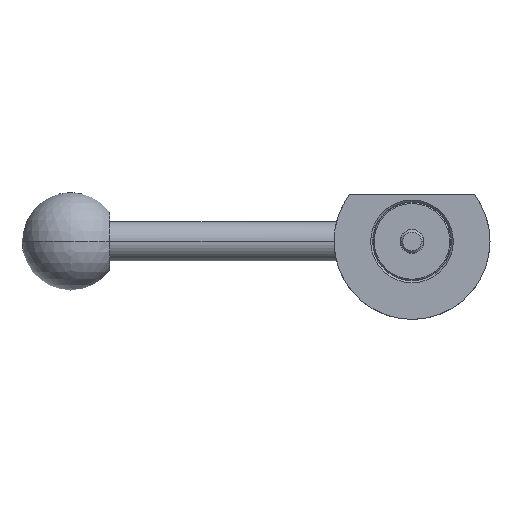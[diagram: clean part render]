
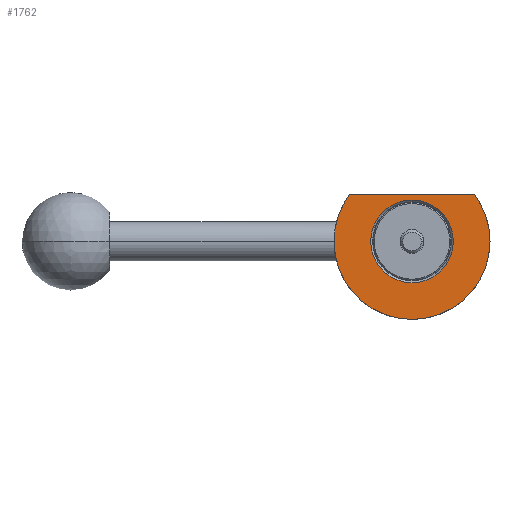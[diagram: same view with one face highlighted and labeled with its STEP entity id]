
A CAD part, front view. The second image highlights one B-rep face of the part: STEP entity #1762.
In plain terms, the highlighted planar face has unit normal (0, -1, 0).
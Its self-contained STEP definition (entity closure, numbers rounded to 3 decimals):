
#2 = CARTESIAN_POINT ( 'NONE',  ( 0., -10., 0. ) ) ;
#10 = AXIS2_PLACEMENT_3D ( 'NONE', #1548, #2010, #579 ) ;
#19 = DIRECTION ( 'NONE',  ( 0., 1., 0. ) ) ;
#125 = DIRECTION ( 'NONE',  ( -1., 0., 0. ) ) ;
#131 = PLANE ( 'NONE',  #10 ) ;
#150 = VERTEX_POINT ( 'NONE', #1478 ) ;
#238 = VERTEX_POINT ( 'NONE', #1544 ) ;
#269 = LINE ( 'NONE', #728, #1118 ) ;
#308 = EDGE_CURVE ( 'NONE', #238, #1300, #1233, .T. ) ;
#322 = DIRECTION ( 'NONE',  ( 0., 1., 0. ) ) ;
#391 = AXIS2_PLACEMENT_3D ( 'NONE', #2, #1703, #1369 ) ;
#504 = AXIS2_PLACEMENT_3D ( 'NONE', #785, #322, #774 ) ;
#579 = DIRECTION ( 'NONE',  ( 1., 0., 0. ) ) ;
#618 = CARTESIAN_POINT ( 'NONE',  ( -16.001, -10., 11.999 ) ) ;
#623 = DIRECTION ( 'NONE',  ( -1., 0., 0. ) ) ;
#706 = CARTESIAN_POINT ( 'NONE',  ( -20., -10., 0. ) ) ;
#721 = EDGE_CURVE ( 'NONE', #1300, #238, #1199, .T. ) ;
#728 = CARTESIAN_POINT ( 'NONE',  ( -10.6, -10., 11.999 ) ) ;
#733 = AXIS2_PLACEMENT_3D ( 'NONE', #2024, #1752, #1424 ) ;
#754 = EDGE_CURVE ( 'NONE', #1168, #150, #1068, .T. ) ;
#770 = FACE_BOUND ( 'NONE', #1579, .T. ) ;
#774 = DIRECTION ( 'NONE',  ( -1., 0., 0. ) ) ;
#784 = EDGE_CURVE ( 'NONE', #1378, #1813, #1826, .T. ) ;
#785 = CARTESIAN_POINT ( 'NONE',  ( 0., -10., 0. ) ) ;
#902 = DIRECTION ( 'NONE',  ( -1., 0., 0. ) ) ;
#961 = ORIENTED_EDGE ( 'NONE', *, *, #721, .T. ) ;
#1045 = ORIENTED_EDGE ( 'NONE', *, *, #1508, .F. ) ;
#1068 = CIRCLE ( 'NONE', #1201, 20. ) ;
#1078 = FACE_OUTER_BOUND ( 'NONE', #1977, .T. ) ;
#1118 = VECTOR ( 'NONE', #902, 1000. ) ;
#1138 = CARTESIAN_POINT ( 'NONE',  ( 16.001, -10., 11.999 ) ) ;
#1168 = VERTEX_POINT ( 'NONE', #1138 ) ;
#1199 = CIRCLE ( 'NONE', #504, 10.6 ) ;
#1201 = AXIS2_PLACEMENT_3D ( 'NONE', #1904, #19, #623 ) ;
#1233 = CIRCLE ( 'NONE', #1920, 10.6 ) ;
#1278 = CIRCLE ( 'NONE', #391, 20. ) ;
#1300 = VERTEX_POINT ( 'NONE', #1470 ) ;
#1345 = ORIENTED_EDGE ( 'NONE', *, *, #754, .F. ) ;
#1369 = DIRECTION ( 'NONE',  ( -1., 0., 0. ) ) ;
#1378 = VERTEX_POINT ( 'NONE', #706 ) ;
#1424 = DIRECTION ( 'NONE',  ( -1., 0., 0. ) ) ;
#1427 = EDGE_CURVE ( 'NONE', #1168, #1813, #269, .T. ) ;
#1470 = CARTESIAN_POINT ( 'NONE',  ( -10.6, -10., 0. ) ) ;
#1478 = CARTESIAN_POINT ( 'NONE',  ( 20., -10., 0. ) ) ;
#1508 = EDGE_CURVE ( 'NONE', #150, #1378, #1278, .T. ) ;
#1544 = CARTESIAN_POINT ( 'NONE',  ( 10.6, -10., 0. ) ) ;
#1548 = CARTESIAN_POINT ( 'NONE',  ( -10.6, -10., 0. ) ) ;
#1579 = EDGE_LOOP ( 'NONE', ( #1618, #961 ) ) ;
#1618 = ORIENTED_EDGE ( 'NONE', *, *, #308, .T. ) ;
#1676 = ORIENTED_EDGE ( 'NONE', *, *, #1427, .T. ) ;
#1681 = DIRECTION ( 'NONE',  ( 0., 1., 0. ) ) ;
#1703 = DIRECTION ( 'NONE',  ( 0., 1., 0. ) ) ;
#1752 = DIRECTION ( 'NONE',  ( 0., 1., 0. ) ) ;
#1762 = ADVANCED_FACE ( 'NONE', ( #770, #1078 ), #131, .T. ) ;
#1813 = VERTEX_POINT ( 'NONE', #618 ) ;
#1826 = CIRCLE ( 'NONE', #733, 20. ) ;
#1835 = CARTESIAN_POINT ( 'NONE',  ( 0., -10., 0. ) ) ;
#1904 = CARTESIAN_POINT ( 'NONE',  ( 0., -10., 0. ) ) ;
#1920 = AXIS2_PLACEMENT_3D ( 'NONE', #1835, #1681, #125 ) ;
#1934 = ORIENTED_EDGE ( 'NONE', *, *, #784, .F. ) ;
#1977 = EDGE_LOOP ( 'NONE', ( #1345, #1676, #1934, #1045 ) ) ;
#2010 = DIRECTION ( 'NONE',  ( 0., -1., 0. ) ) ;
#2024 = CARTESIAN_POINT ( 'NONE',  ( 0., -10., 0. ) ) ;
